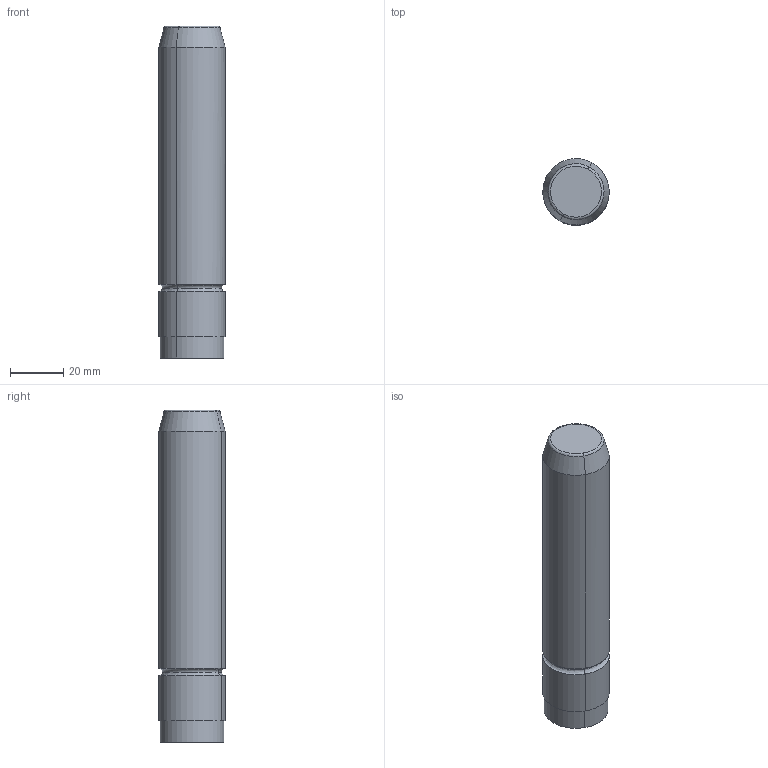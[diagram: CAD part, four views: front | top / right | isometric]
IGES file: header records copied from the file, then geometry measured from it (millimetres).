
Start section: START RECORD GO HERE.
Global section: file name: M104-25x125.igs; native system: DASSAULT SYSTEMES CATIA V5 R20 - www.3ds.com; preprocessor: CATIA Version 5 Release 20 ; author: Utente; organization: NB04-ASUS; date: 20201226.223914; units: millimetre
Bounding box: 24.99 x 25 x 125 mm (x, y, z)
Surface area: 10669.7 mm2 (no closed solid volume)
Topology: 0 solids, 0 shells, 17 faces, 64 edges, 64 vertices
Faces by surface type: revolution 14, plane 3
